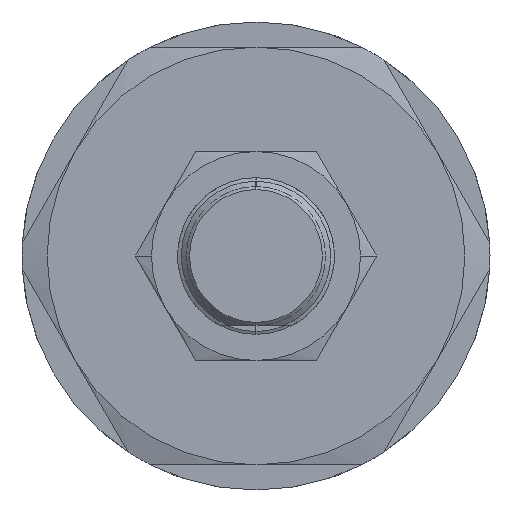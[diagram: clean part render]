
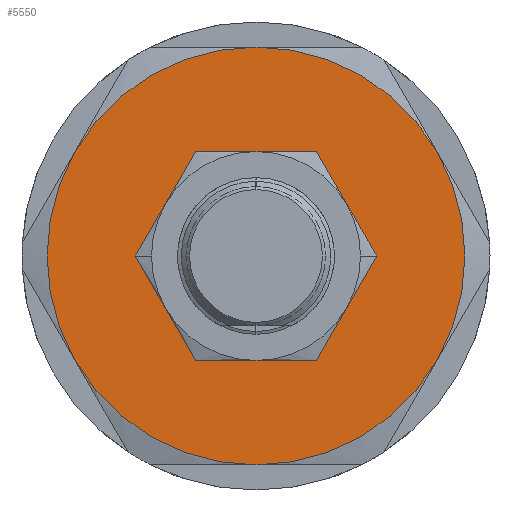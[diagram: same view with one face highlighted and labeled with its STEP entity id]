
A CAD part, left-side view. The second image highlights one B-rep face of the part: STEP entity #5550.
In plain terms, the highlighted planar face has unit normal (-1, 0, 0).
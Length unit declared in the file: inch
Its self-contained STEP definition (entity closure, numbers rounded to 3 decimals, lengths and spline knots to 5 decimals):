
#1802=CARTESIAN_POINT('',(-3.,-0.25,0.));
#1803=VERTEX_POINT('',#1802);
#1810=CARTESIAN_POINT('',(-3.,-0.21651,-0.125));
#1811=VERTEX_POINT('',#1810);
#1825=CARTESIAN_POINT('',(-3.,0.,0.));
#1826=DIRECTION('',(1.0,0.0,0.0));
#1827=DIRECTION('',(0.0,-1.0,0.0));
#1828=AXIS2_PLACEMENT_3D('',#1825,#1826,#1827);
#1829=CIRCLE('',#1828,0.25);
#1830=EDGE_CURVE('',#1803,#1811,#1829,.T.);
#1840=CARTESIAN_POINT('',(-3.,0.25,0.));
#1841=VERTEX_POINT('',#1840);
#1850=CARTESIAN_POINT('',(-3.,0.21651,-0.125));
#1851=VERTEX_POINT('',#1850);
#1852=CARTESIAN_POINT('',(-3.,0.,0.));
#1853=DIRECTION('',(1.0,0.0,0.0));
#1854=DIRECTION('',(0.0,-1.0,0.0));
#1855=AXIS2_PLACEMENT_3D('',#1852,#1853,#1854);
#1856=CIRCLE('',#1855,0.25);
#1857=EDGE_CURVE('',#1851,#1841,#1856,.T.);
#5134=CARTESIAN_POINT('',(-3.,0.21651,0.125));
#5135=VERTEX_POINT('',#5134);
#5149=CARTESIAN_POINT('',(-3.,0.,0.25));
#5150=VERTEX_POINT('',#5149);
#5164=CARTESIAN_POINT('',(-3.,0.,0.));
#5165=DIRECTION('',(1.0,0.0,0.0));
#5166=DIRECTION('',(0.0,-1.0,0.0));
#5167=AXIS2_PLACEMENT_3D('',#5164,#5165,#5166);
#5168=CIRCLE('',#5167,0.25);
#5169=EDGE_CURVE('',#5135,#5150,#5168,.T.);
#5193=CARTESIAN_POINT('',(-3.,0.,0.));
#5194=DIRECTION('',(1.0,0.0,0.0));
#5195=DIRECTION('',(0.0,-1.0,0.0));
#5196=AXIS2_PLACEMENT_3D('',#5193,#5194,#5195);
#5197=CIRCLE('',#5196,0.25);
#5198=EDGE_CURVE('',#1841,#5135,#5197,.T.);
#5210=CARTESIAN_POINT('',(-3.,0.,-0.25));
#5211=VERTEX_POINT('',#5210);
#5238=CARTESIAN_POINT('',(-3.,0.,0.));
#5239=DIRECTION('',(1.0,0.0,0.0));
#5240=DIRECTION('',(0.0,-1.0,0.0));
#5241=AXIS2_PLACEMENT_3D('',#5238,#5239,#5240);
#5242=CIRCLE('',#5241,0.25);
#5243=EDGE_CURVE('',#5211,#1851,#5242,.T.);
#5268=CARTESIAN_POINT('',(-3.,0.,0.));
#5269=DIRECTION('',(1.0,0.0,0.0));
#5270=DIRECTION('',(0.0,-1.0,0.0));
#5271=AXIS2_PLACEMENT_3D('',#5268,#5269,#5270);
#5272=CIRCLE('',#5271,0.25);
#5273=EDGE_CURVE('',#1811,#5211,#5272,.T.);
#5297=CARTESIAN_POINT('',(-3.,-0.21651,0.125));
#5298=VERTEX_POINT('',#5297);
#5299=CARTESIAN_POINT('',(-3.,0.,0.));
#5300=DIRECTION('',(1.0,0.0,0.0));
#5301=DIRECTION('',(0.0,-1.0,0.0));
#5302=AXIS2_PLACEMENT_3D('',#5299,#5300,#5301);
#5303=CIRCLE('',#5302,0.25);
#5304=EDGE_CURVE('',#5298,#1803,#5303,.T.);
#5342=CARTESIAN_POINT('',(-3.,0.,0.));
#5343=DIRECTION('',(1.0,0.0,0.0));
#5344=DIRECTION('',(0.0,-1.0,0.0));
#5345=AXIS2_PLACEMENT_3D('',#5342,#5343,#5344);
#5346=CIRCLE('',#5345,0.25);
#5347=EDGE_CURVE('',#5150,#5298,#5346,.T.);
#5479=CARTESIAN_POINT('',(-3.,0.,0.));
#5480=DIRECTION('',(-1.0,0.0,0.0));
#5481=DIRECTION('',(0.0,0.0,1.0));
#5482=AXIS2_PLACEMENT_3D('',#5479,#5480,#5481);
#5483=PLANE('',#5482);
#5484=CARTESIAN_POINT('',(-3.,-0.43301,0.25));
#5485=VERTEX_POINT('',#5484);
#5486=CARTESIAN_POINT('',(-3.0,0.,0.5));
#5487=VERTEX_POINT('',#5486);
#5488=CARTESIAN_POINT('',(-3.,0.,0.));
#5489=DIRECTION('',(-1.0,0.0,0.0));
#5490=DIRECTION('',(0.0,0.0,-1.0));
#5491=AXIS2_PLACEMENT_3D('',#5488,#5489,#5490);
#5492=CIRCLE('',#5491,0.5);
#5493=EDGE_CURVE('',#5485,#5487,#5492,.T.);
#5494=ORIENTED_EDGE('',*,*,#5493,.T.);
#5495=CARTESIAN_POINT('',(-3.0,0.43301,0.25));
#5496=VERTEX_POINT('',#5495);
#5497=CARTESIAN_POINT('',(-3.,0.,0.));
#5498=DIRECTION('',(-1.0,0.0,0.0));
#5499=DIRECTION('',(0.0,0.0,-1.0));
#5500=AXIS2_PLACEMENT_3D('',#5497,#5498,#5499);
#5501=CIRCLE('',#5500,0.5);
#5502=EDGE_CURVE('',#5487,#5496,#5501,.T.);
#5503=ORIENTED_EDGE('',*,*,#5502,.T.);
#5504=CARTESIAN_POINT('',(-3.,0.43301,-0.25));
#5505=VERTEX_POINT('',#5504);
#5506=CARTESIAN_POINT('',(-3.,0.,0.));
#5507=DIRECTION('',(-1.0,0.0,0.0));
#5508=DIRECTION('',(0.0,0.0,-1.0));
#5509=AXIS2_PLACEMENT_3D('',#5506,#5507,#5508);
#5510=CIRCLE('',#5509,0.5);
#5511=EDGE_CURVE('',#5496,#5505,#5510,.T.);
#5512=ORIENTED_EDGE('',*,*,#5511,.T.);
#5513=CARTESIAN_POINT('',(-3.0,0.,-0.5));
#5514=VERTEX_POINT('',#5513);
#5515=CARTESIAN_POINT('',(-3.,0.,0.));
#5516=DIRECTION('',(-1.0,0.0,0.0));
#5517=DIRECTION('',(0.0,0.0,-1.0));
#5518=AXIS2_PLACEMENT_3D('',#5515,#5516,#5517);
#5519=CIRCLE('',#5518,0.5);
#5520=EDGE_CURVE('',#5505,#5514,#5519,.T.);
#5521=ORIENTED_EDGE('',*,*,#5520,.T.);
#5522=CARTESIAN_POINT('',(-3.,-0.43301,-0.25));
#5523=VERTEX_POINT('',#5522);
#5524=CARTESIAN_POINT('',(-3.,0.,0.));
#5525=DIRECTION('',(-1.0,0.0,0.0));
#5526=DIRECTION('',(0.0,0.0,-1.0));
#5527=AXIS2_PLACEMENT_3D('',#5524,#5525,#5526);
#5528=CIRCLE('',#5527,0.5);
#5529=EDGE_CURVE('',#5514,#5523,#5528,.T.);
#5530=ORIENTED_EDGE('',*,*,#5529,.T.);
#5531=CARTESIAN_POINT('',(-3.,0.,0.));
#5532=DIRECTION('',(-1.0,0.0,0.0));
#5533=DIRECTION('',(0.0,0.0,-1.0));
#5534=AXIS2_PLACEMENT_3D('',#5531,#5532,#5533);
#5535=CIRCLE('',#5534,0.5);
#5536=EDGE_CURVE('',#5523,#5485,#5535,.T.);
#5537=ORIENTED_EDGE('',*,*,#5536,.T.);
#5538=EDGE_LOOP('',(#5494,#5503,#5512,#5521,#5530,#5537));
#5539=FACE_OUTER_BOUND('',#5538,.T.);
#5540=ORIENTED_EDGE('',*,*,#5169,.T.);
#5541=ORIENTED_EDGE('',*,*,#5347,.T.);
#5542=ORIENTED_EDGE('',*,*,#5304,.T.);
#5543=ORIENTED_EDGE('',*,*,#1830,.T.);
#5544=ORIENTED_EDGE('',*,*,#5273,.T.);
#5545=ORIENTED_EDGE('',*,*,#5243,.T.);
#5546=ORIENTED_EDGE('',*,*,#1857,.T.);
#5547=ORIENTED_EDGE('',*,*,#5198,.T.);
#5548=EDGE_LOOP('',(#5540,#5541,#5542,#5543,#5544,#5545,#5546,#5547));
#5549=FACE_BOUND('',#5548,.T.);
#5550=ADVANCED_FACE('',(#5539,#5549),#5483,.T.);
